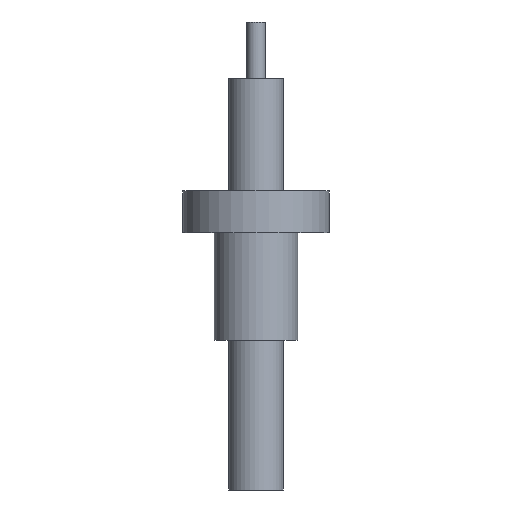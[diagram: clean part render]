
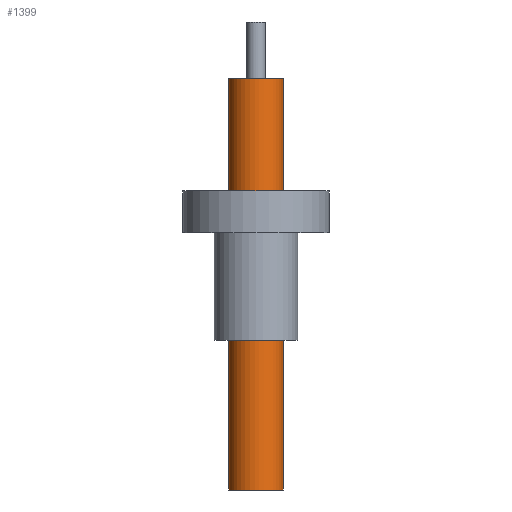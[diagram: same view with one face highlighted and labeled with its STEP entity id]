
A CAD part, front view. The second image highlights one B-rep face of the part: STEP entity #1399.
In plain terms, the highlighted cylindrical face has radius 4.661 mm (diameter 9.322 mm), a partial arc.
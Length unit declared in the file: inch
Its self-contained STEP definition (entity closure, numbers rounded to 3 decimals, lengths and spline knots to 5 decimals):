
#81 = EDGE_CURVE ( 'NONE', #823, #1704, #1622, .T. ) ;
#114 = CARTESIAN_POINT ( 'NONE',  ( -0.1835, 0., 0. ) ) ;
#159 = DIRECTION ( 'NONE',  ( 1., 0., 0. ) ) ;
#181 = CARTESIAN_POINT ( 'NONE',  ( 0.1835, 0., 0. ) ) ;
#332 = CARTESIAN_POINT ( 'NONE',  ( 0.1835, 0., 0. ) ) ;
#391 = EDGE_CURVE ( 'NONE', #1704, #451, #3022, .T. ) ;
#451 = VERTEX_POINT ( 'NONE', #738 ) ;
#460 = EDGE_CURVE ( 'NONE', #1581, #451, #1819, .T. ) ;
#737 = ORIENTED_EDGE ( 'NONE', *, *, #391, .T. ) ;
#738 = CARTESIAN_POINT ( 'NONE',  ( -0.1835, 0., 2.75 ) ) ;
#823 = VERTEX_POINT ( 'NONE', #332 ) ;
#1013 = VECTOR ( 'NONE', #2352, 39.37008 ) ;
#1269 = CARTESIAN_POINT ( 'NONE',  ( 0., 0., 0. ) ) ;
#1375 = CARTESIAN_POINT ( 'NONE',  ( 0.1835, 0., 2.75 ) ) ;
#1399 = ADVANCED_FACE ( 'NONE', ( #2069 ), #2639, .T. ) ;
#1581 = VERTEX_POINT ( 'NONE', #114 ) ;
#1591 = CARTESIAN_POINT ( 'NONE',  ( 0., 0., 0. ) ) ;
#1593 = DIRECTION ( 'NONE',  ( 1., 0., 0. ) ) ;
#1601 = AXIS2_PLACEMENT_3D ( 'NONE', #1269, #3448, #159 ) ;
#1622 = LINE ( 'NONE', #181, #1013 ) ;
#1647 = ORIENTED_EDGE ( 'NONE', *, *, #460, .F. ) ;
#1704 = VERTEX_POINT ( 'NONE', #1375 ) ;
#1805 = AXIS2_PLACEMENT_3D ( 'NONE', #1591, #2937, #2688 ) ;
#1819 = LINE ( 'NONE', #2928, #2685 ) ;
#2069 = FACE_OUTER_BOUND ( 'NONE', #3074, .T. ) ;
#2147 = ORIENTED_EDGE ( 'NONE', *, *, #2265, .T. ) ;
#2265 = EDGE_CURVE ( 'NONE', #1581, #823, #2729, .T. ) ;
#2352 = DIRECTION ( 'NONE',  ( 0., 0., 1. ) ) ;
#2639 = CYLINDRICAL_SURFACE ( 'NONE', #1601, 0.1835 ) ;
#2652 = DIRECTION ( 'NONE',  ( 0., 0., 1. ) ) ;
#2685 = VECTOR ( 'NONE', #2652, 39.37008 ) ;
#2688 = DIRECTION ( 'NONE',  ( 1., 0., 0. ) ) ;
#2729 = CIRCLE ( 'NONE', #1805, 0.1835 ) ;
#2899 = DIRECTION ( 'NONE',  ( 0., 0., -1. ) ) ;
#2928 = CARTESIAN_POINT ( 'NONE',  ( -0.1835, 0., 0. ) ) ;
#2937 = DIRECTION ( 'NONE',  ( 0., 0., 1. ) ) ;
#2958 = CARTESIAN_POINT ( 'NONE',  ( 0., 0., 2.75 ) ) ;
#3022 = CIRCLE ( 'NONE', #3355, 0.1835 ) ;
#3074 = EDGE_LOOP ( 'NONE', ( #1647, #2147, #3142, #737 ) ) ;
#3142 = ORIENTED_EDGE ( 'NONE', *, *, #81, .T. ) ;
#3355 = AXIS2_PLACEMENT_3D ( 'NONE', #2958, #2899, #1593 ) ;
#3448 = DIRECTION ( 'NONE',  ( 0., 0., 1. ) ) ;
